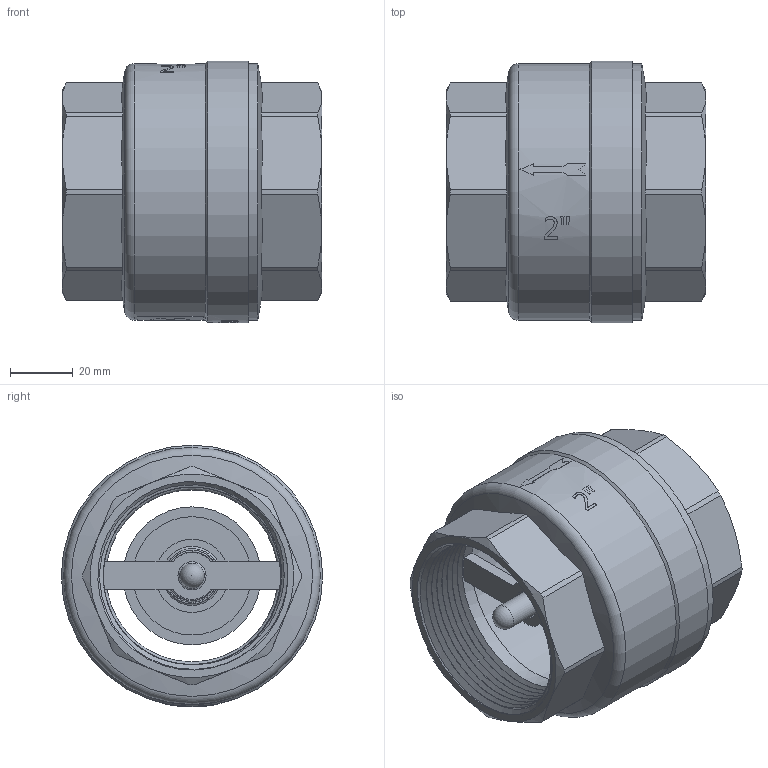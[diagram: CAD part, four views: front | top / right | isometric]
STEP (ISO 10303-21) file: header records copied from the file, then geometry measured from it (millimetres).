
FILE_DESCRIPTION(/* description */ (''),/* implementation_level */ '2;1');
FILE_NAME(/* name */ 'F:\Артём\00000\Работа удаленка\═╝╓╜\VT.161\VT.161.N.09.stp',/* time_stamp */ '2021-04-01T14:46:30+03:00',/* author */ ('almis'),/* organization */ (''),/* preprocessor_version */ 'ST-DEVELOPER v18',/* originating_system */ 'Autodesk Inventor 2020',/* authorisation */ '');
FILE_SCHEMA (('AUTOMOTIVE_DESIGN { 1 0 10303 214 3 1 1 }'));
Length unit declared in the file: millimetre
Products named in the file (1): VT.161.N.09
Bounding box: 83 x 83.5 x 83.6 mm (x, y, z)
Volume: 108653 mm3; surface area: 65291.2 mm2
Topology: 1 solids, 1 shells, 264 faces, 726 edges, 484 vertices
Faces by surface type: plane 112, cylinder 83, bspline 40, cone 26, torus 2, sphere 1
Full cylindrical faces by diameter (mm): 7.918 x3, 9 x2, 9.718 x1, 23.395 x1, 37.792 x1, 44.09 x1, 55 x1, 56.7 x14, 61.3 x14, 70.5 x1, 76.5 x1, 82 x2, 83.5 x1
Entity records: 14968 total; most frequent: CARTESIAN_POINT 8509, ORIENTED_EDGE 1450, DIRECTION 1210, EDGE_CURVE 725, VERTEX_POINT 484, AXIS2_PLACEMENT_3D 460, EDGE_LOOP 295, LINE 290
